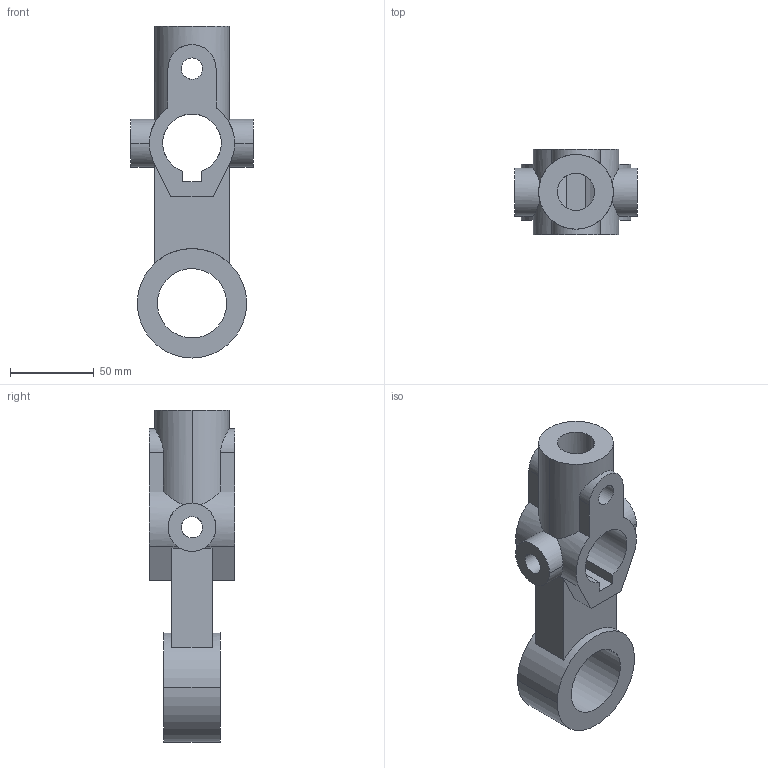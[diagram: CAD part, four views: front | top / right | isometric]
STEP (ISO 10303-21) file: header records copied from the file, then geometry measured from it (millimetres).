
FILE_DESCRIPTION(('CATIA V5 STEP Exchange'),'2;1');
FILE_NAME('C:\Users\Cata\Desktop\4.stp','2023-12-20T18:16:16+00:00',('none'),('none'),'CATIA Version 5 Release 20 GA (IN-10)','CATIA V5 STEP AP203','none');
FILE_SCHEMA(('CONFIG_CONTROL_DESIGN'));
Length unit declared in the file: millimetre
Products named in the file (1): Part1
Bounding box: 73.03 x 50.8 x 197.66 mm (x, y, z)
Volume: 239108.8 mm3; surface area: 50822.5 mm2
Topology: 1 solids, 1 shells, 51 faces, 144 edges, 96 vertices
Faces by surface type: cylinder 27, plane 24
Entity records: 1865 total; most frequent: CARTESIAN_POINT 617, ORIENTED_EDGE 288, DIRECTION 172, EDGE_CURVE 144, VERTEX_POINT 96, VECTOR 76, LINE 76, AXIS2_PLACEMENT_3D 67
